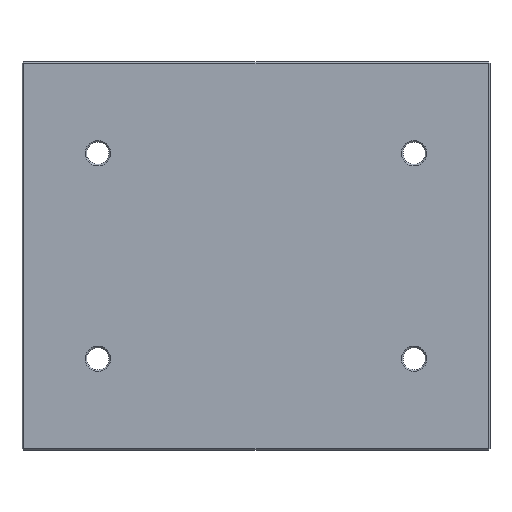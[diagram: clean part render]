
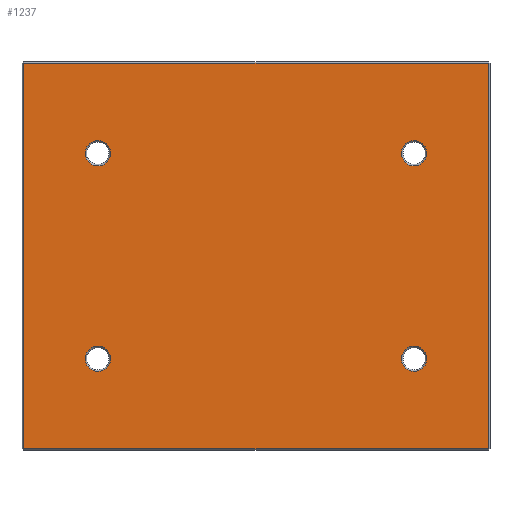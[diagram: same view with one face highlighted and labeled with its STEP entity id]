
A CAD part, front view. The second image highlights one B-rep face of the part: STEP entity #1237.
In plain terms, the highlighted planar face has unit normal (0, -1, 0).
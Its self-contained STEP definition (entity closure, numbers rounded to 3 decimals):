
#1 = FACE_BOUND ( 'NONE', #1180, .T. ) ;
#15 = CARTESIAN_POINT ( 'NONE',  ( 100., 0., -65. ) ) ;
#25 = DIRECTION ( 'NONE',  ( 0., 1., 0. ) ) ;
#34 = FACE_BOUND ( 'NONE', #1624, .T. ) ;
#35 = DIRECTION ( 'NONE',  ( 0., 0., 1. ) ) ;
#41 = CIRCLE ( 'NONE', #1592, 8. ) ;
#57 = CARTESIAN_POINT ( 'NONE',  ( -147., 0., 0. ) ) ;
#64 = ORIENTED_EDGE ( 'NONE', *, *, #713, .T. ) ;
#97 = ORIENTED_EDGE ( 'NONE', *, *, #450, .T. ) ;
#124 = CIRCLE ( 'NONE', #1196, 8. ) ;
#129 = CIRCLE ( 'NONE', #1133, 8. ) ;
#164 = EDGE_CURVE ( 'NONE', #914, #177, #382, .T. ) ;
#177 = VERTEX_POINT ( 'NONE', #883 ) ;
#195 = CARTESIAN_POINT ( 'NONE',  ( 100., 0., 73. ) ) ;
#196 = EDGE_CURVE ( 'NONE', #177, #1228, #1324, .T. ) ;
#212 = VERTEX_POINT ( 'NONE', #1556 ) ;
#238 = EDGE_LOOP ( 'NONE', ( #97, #550 ) ) ;
#258 = ORIENTED_EDGE ( 'NONE', *, *, #1382, .T. ) ;
#265 = VECTOR ( 'NONE', #1241, 1000. ) ;
#306 = CARTESIAN_POINT ( 'NONE',  ( 147., 0., 0. ) ) ;
#312 = CARTESIAN_POINT ( 'NONE',  ( 0., 0., 0. ) ) ;
#315 = ORIENTED_EDGE ( 'NONE', *, *, #846, .T. ) ;
#339 = LINE ( 'NONE', #512, #265 ) ;
#353 = EDGE_LOOP ( 'NONE', ( #1641, #64, #676, #776 ) ) ;
#374 = AXIS2_PLACEMENT_3D ( 'NONE', #907, #916, #794 ) ;
#381 = DIRECTION ( 'NONE',  ( 0., 1., 0. ) ) ;
#382 = LINE ( 'NONE', #1374, #649 ) ;
#399 = AXIS2_PLACEMENT_3D ( 'NONE', #312, #381, #513 ) ;
#415 = CIRCLE ( 'NONE', #374, 8. ) ;
#450 = EDGE_CURVE ( 'NONE', #1644, #1426, #41, .T. ) ;
#468 = VERTEX_POINT ( 'NONE', #195 ) ;
#480 = PLANE ( 'NONE',  #399 ) ;
#499 = ORIENTED_EDGE ( 'NONE', *, *, #1345, .T. ) ;
#512 = CARTESIAN_POINT ( 'NONE',  ( 0., 0., 122. ) ) ;
#513 = DIRECTION ( 'NONE',  ( 0., 0., 1. ) ) ;
#522 = CARTESIAN_POINT ( 'NONE',  ( -100., 0., 65. ) ) ;
#550 = ORIENTED_EDGE ( 'NONE', *, *, #1025, .T. ) ;
#580 = CIRCLE ( 'NONE', #698, 8. ) ;
#583 = VECTOR ( 'NONE', #921, 1000. ) ;
#586 = ORIENTED_EDGE ( 'NONE', *, *, #1407, .T. ) ;
#622 = EDGE_CURVE ( 'NONE', #1535, #468, #129, .T. ) ;
#635 = AXIS2_PLACEMENT_3D ( 'NONE', #522, #798, #935 ) ;
#649 = VECTOR ( 'NONE', #879, 1000. ) ;
#653 = VERTEX_POINT ( 'NONE', #1595 ) ;
#664 = FACE_BOUND ( 'NONE', #801, .T. ) ;
#676 = ORIENTED_EDGE ( 'NONE', *, *, #1266, .T. ) ;
#698 = AXIS2_PLACEMENT_3D ( 'NONE', #1116, #1181, #1186 ) ;
#713 = EDGE_CURVE ( 'NONE', #1228, #1543, #339, .T. ) ;
#749 = CARTESIAN_POINT ( 'NONE',  ( -100., 0., 73. ) ) ;
#755 = FACE_BOUND ( 'NONE', #238, .T. ) ;
#759 = CIRCLE ( 'NONE', #1438, 8. ) ;
#776 = ORIENTED_EDGE ( 'NONE', *, *, #164, .T. ) ;
#794 = DIRECTION ( 'NONE',  ( 0., 0., 1. ) ) ;
#798 = DIRECTION ( 'NONE',  ( 0., 1., 0. ) ) ;
#801 = EDGE_LOOP ( 'NONE', ( #586, #315 ) ) ;
#840 = CARTESIAN_POINT ( 'NONE',  ( -147., 0., 122. ) ) ;
#846 = EDGE_CURVE ( 'NONE', #1008, #1392, #759, .T. ) ;
#879 = DIRECTION ( 'NONE',  ( 1., 0., 0. ) ) ;
#883 = CARTESIAN_POINT ( 'NONE',  ( 147., 0., -122. ) ) ;
#907 = CARTESIAN_POINT ( 'NONE',  ( -100., 0., -65. ) ) ;
#914 = VERTEX_POINT ( 'NONE', #1128 ) ;
#915 = ORIENTED_EDGE ( 'NONE', *, *, #622, .T. ) ;
#916 = DIRECTION ( 'NONE',  ( 0., 1., 0. ) ) ;
#921 = DIRECTION ( 'NONE',  ( 0., 0., -1. ) ) ;
#924 = CARTESIAN_POINT ( 'NONE',  ( 100., 0., 57. ) ) ;
#935 = DIRECTION ( 'NONE',  ( 0., 0., 1. ) ) ;
#967 = DIRECTION ( 'NONE',  ( 0., 0., 1. ) ) ;
#974 = VECTOR ( 'NONE', #1501, 1000. ) ;
#976 = DIRECTION ( 'NONE',  ( 0., 1., 0. ) ) ;
#983 = CARTESIAN_POINT ( 'NONE',  ( -100., 0., 65. ) ) ;
#1008 = VERTEX_POINT ( 'NONE', #749 ) ;
#1025 = EDGE_CURVE ( 'NONE', #1426, #1644, #124, .T. ) ;
#1062 = CARTESIAN_POINT ( 'NONE',  ( -100., 0., 57. ) ) ;
#1116 = CARTESIAN_POINT ( 'NONE',  ( 100., 0., 65. ) ) ;
#1128 = CARTESIAN_POINT ( 'NONE',  ( -147., 0., -122. ) ) ;
#1133 = AXIS2_PLACEMENT_3D ( 'NONE', #1440, #1446, #1471 ) ;
#1180 = EDGE_LOOP ( 'NONE', ( #915, #1355 ) ) ;
#1181 = DIRECTION ( 'NONE',  ( 0., 1., 0. ) ) ;
#1186 = DIRECTION ( 'NONE',  ( 0., 0., 1. ) ) ;
#1196 = AXIS2_PLACEMENT_3D ( 'NONE', #1369, #1253, #1244 ) ;
#1211 = DIRECTION ( 'NONE',  ( 0., 0., 1. ) ) ;
#1226 = CIRCLE ( 'NONE', #1578, 8. ) ;
#1228 = VERTEX_POINT ( 'NONE', #1659 ) ;
#1237 = ADVANCED_FACE ( 'NONE', ( #755, #1, #664, #34, #1342 ), #480, .F. ) ;
#1241 = DIRECTION ( 'NONE',  ( -1., 0., 0. ) ) ;
#1244 = DIRECTION ( 'NONE',  ( 0., 0., 1. ) ) ;
#1253 = DIRECTION ( 'NONE',  ( 0., 1., 0. ) ) ;
#1266 = EDGE_CURVE ( 'NONE', #1543, #914, #1302, .T. ) ;
#1302 = LINE ( 'NONE', #57, #583 ) ;
#1308 = DIRECTION ( 'NONE',  ( 0., 1., 0. ) ) ;
#1318 = CIRCLE ( 'NONE', #635, 8. ) ;
#1324 = LINE ( 'NONE', #306, #974 ) ;
#1338 = CARTESIAN_POINT ( 'NONE',  ( 100., 0., -57. ) ) ;
#1342 = FACE_OUTER_BOUND ( 'NONE', #353, .T. ) ;
#1345 = EDGE_CURVE ( 'NONE', #212, #653, #1226, .T. ) ;
#1355 = ORIENTED_EDGE ( 'NONE', *, *, #1549, .T. ) ;
#1369 = CARTESIAN_POINT ( 'NONE',  ( 100., 0., -65. ) ) ;
#1374 = CARTESIAN_POINT ( 'NONE',  ( 0., 0., -122. ) ) ;
#1382 = EDGE_CURVE ( 'NONE', #653, #212, #415, .T. ) ;
#1392 = VERTEX_POINT ( 'NONE', #1062 ) ;
#1407 = EDGE_CURVE ( 'NONE', #1392, #1008, #1318, .T. ) ;
#1426 = VERTEX_POINT ( 'NONE', #1338 ) ;
#1438 = AXIS2_PLACEMENT_3D ( 'NONE', #983, #976, #967 ) ;
#1440 = CARTESIAN_POINT ( 'NONE',  ( 100., 0., 65. ) ) ;
#1446 = DIRECTION ( 'NONE',  ( 0., 1., 0. ) ) ;
#1471 = DIRECTION ( 'NONE',  ( 0., 0., 1. ) ) ;
#1501 = DIRECTION ( 'NONE',  ( 0., 0., 1. ) ) ;
#1504 = CARTESIAN_POINT ( 'NONE',  ( 100., 0., -73. ) ) ;
#1535 = VERTEX_POINT ( 'NONE', #924 ) ;
#1543 = VERTEX_POINT ( 'NONE', #840 ) ;
#1549 = EDGE_CURVE ( 'NONE', #468, #1535, #580, .T. ) ;
#1556 = CARTESIAN_POINT ( 'NONE',  ( -100., 0., -73. ) ) ;
#1578 = AXIS2_PLACEMENT_3D ( 'NONE', #1585, #1308, #1211 ) ;
#1585 = CARTESIAN_POINT ( 'NONE',  ( -100., 0., -65. ) ) ;
#1592 = AXIS2_PLACEMENT_3D ( 'NONE', #15, #25, #35 ) ;
#1595 = CARTESIAN_POINT ( 'NONE',  ( -100., 0., -57. ) ) ;
#1624 = EDGE_LOOP ( 'NONE', ( #499, #258 ) ) ;
#1641 = ORIENTED_EDGE ( 'NONE', *, *, #196, .T. ) ;
#1644 = VERTEX_POINT ( 'NONE', #1504 ) ;
#1659 = CARTESIAN_POINT ( 'NONE',  ( 147., 0., 122. ) ) ;
